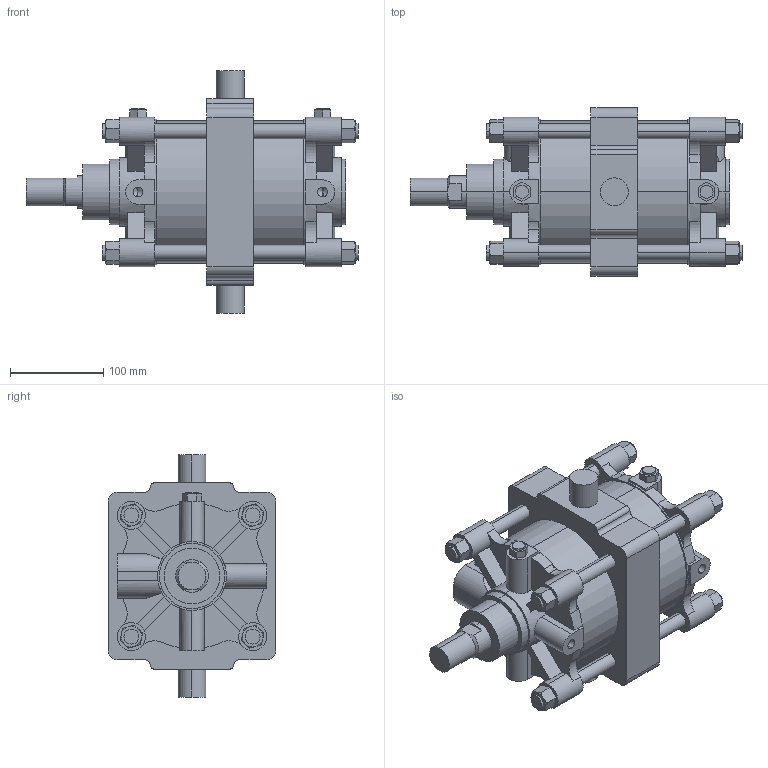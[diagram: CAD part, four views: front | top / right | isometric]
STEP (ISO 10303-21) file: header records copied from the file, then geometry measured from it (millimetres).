
FILE_DESCRIPTION (( 'STEP AP203' ), '1' );
FILE_NAME ('A##2-140#-100-T.STEP', '2016-03-31T06:54:09', ( '' ), ( '' ), 'SwSTEP 2.0', 'SolidWorks 2014', '' );
FILE_SCHEMA (( 'CONFIG_CONTROL_DESIGN' ));
Length unit declared in the file: millimetre
Products named in the file (7): A140-100; A##2-140#-100-T; A140-T; A140-A; A140-B
Assembly tree (16 placements, depth 2):
  A##2-140#-100-T
    A140-B
    A140-100
    A140-A
    (unnamed)  x8
    (unnamed)  x4
    A140-T
Bounding box: 356 x 180 x 260 mm (x, y, z)
Volume: 5217003.1 mm3; surface area: 496500.3 mm2
Topology: 16 solids, 18 shells, 422 faces, 1068 edges, 684 vertices
Faces by surface type: plane 210, cylinder 150, torus 48, cone 14
Entity records: 10904 total; most frequent: CARTESIAN_POINT 2154, DIRECTION 1730, ORIENTED_EDGE 1572, EDGE_CURVE 786, AXIS2_PLACEMENT_3D 661, VERTEX_POINT 518, VECTOR 408, LINE 408
